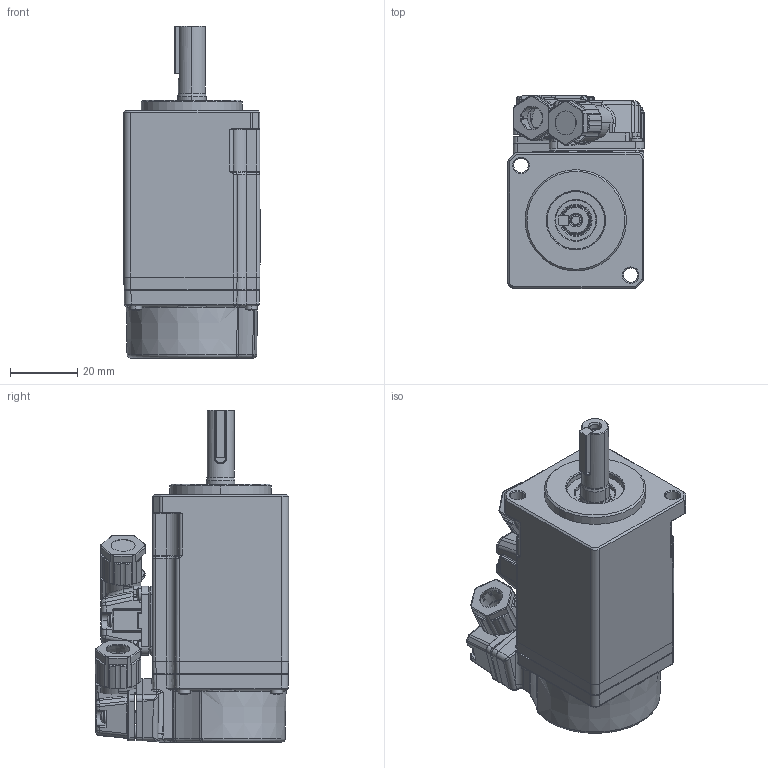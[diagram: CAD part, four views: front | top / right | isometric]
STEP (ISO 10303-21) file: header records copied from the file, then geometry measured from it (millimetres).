
FILE_DESCRIPTION (( 'STEP AP214' ), '1' );
FILE_NAME ('40x40-100W无油封伺服电机_通用外形图_A0.STEP', '2023-09-15T00:46:37', ( '' ), ( '' ), 'SwSTEP 2.0', 'SolidWorks 2020', '' );
FILE_SCHEMA (( 'AUTOMOTIVE_DESIGN' ));
Length unit declared in the file: millimetre
Products named in the file (1): 40x40-100W无油封伺服电机_通用外形图_A0
Bounding box: 40.4 x 57.25 x 98.4 mm (x, y, z)
Surface area: 21738.3 mm2 (no closed solid volume)
Topology: 0 solids, 25 shells, 1337 faces, 4629 edges, 3139 vertices
Faces by surface type: plane 482, cylinder 416, bspline 209, torus 146, cone 46, sphere 38
Entity records: 72427 total; most frequent: CARTESIAN_POINT 20858, ORIENTED_EDGE 7587, DIRECTION 7001, EDGE_CURVE 4613, VERTEX_POINT 3139, AXIS2_PLACEMENT_3D 2474, VECTOR 2053, LINE 2053
